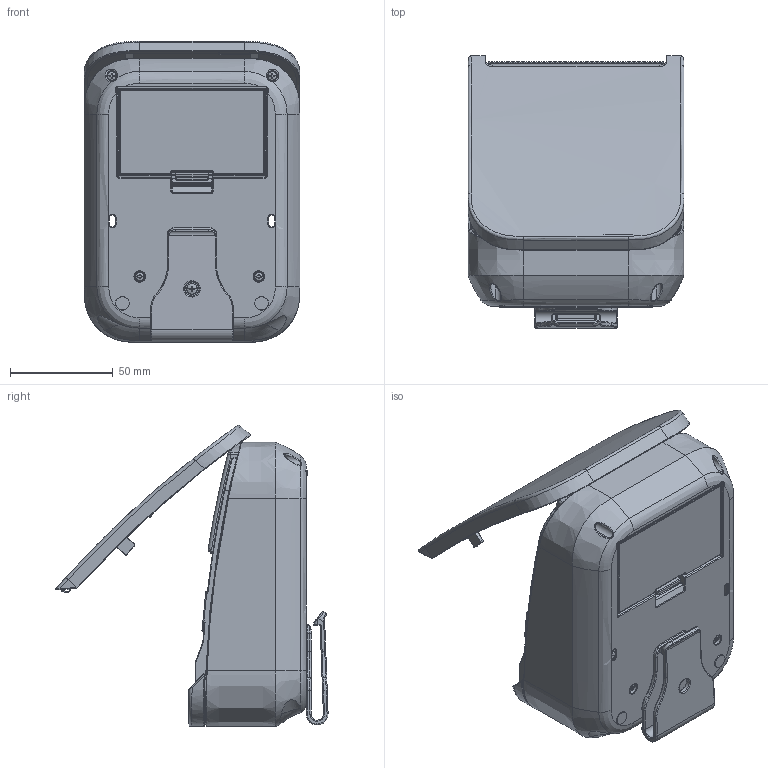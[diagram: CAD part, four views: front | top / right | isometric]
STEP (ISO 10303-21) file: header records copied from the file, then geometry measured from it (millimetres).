
FILE_DESCRIPTION((''),'2;1');
FILE_NAME('TM-P80II_OPEN_250227','2025-02-26T16:45:11',('5005293'),(''),'CREO PARAMETRIC BY PTC INC, 2021184','CREO PARAMETRIC BY PTC INC, 2021184','');
FILE_SCHEMA(('AUTOMOTIVE_DESIGN { 1 0 10303 214 1 1 1 1 }'));
Products named in the file (1): TM-P80II_OPEN_250227
Bounding box: 105 x 132.3 x 146.39 mm (x, y, z)
Surface area: 187609.1 mm2 (no closed solid volume)
Topology: 0 solids, 70 shells, 4565 faces, 14132 edges, 9476 vertices
Faces by surface type: plane 1879, cylinder 1594, bspline 519, torus 263, cone 139, extrusion 96, sphere 75
Entity records: 224536 total; most frequent: CARTESIAN_POINT 102892, ORIENTED_EDGE 25358, DIRECTION 24042, EDGE_CURVE 14131, VERTEX_POINT 9476, AXIS2_PLACEMENT_3D 8062, VECTOR 7918, LINE 7822
